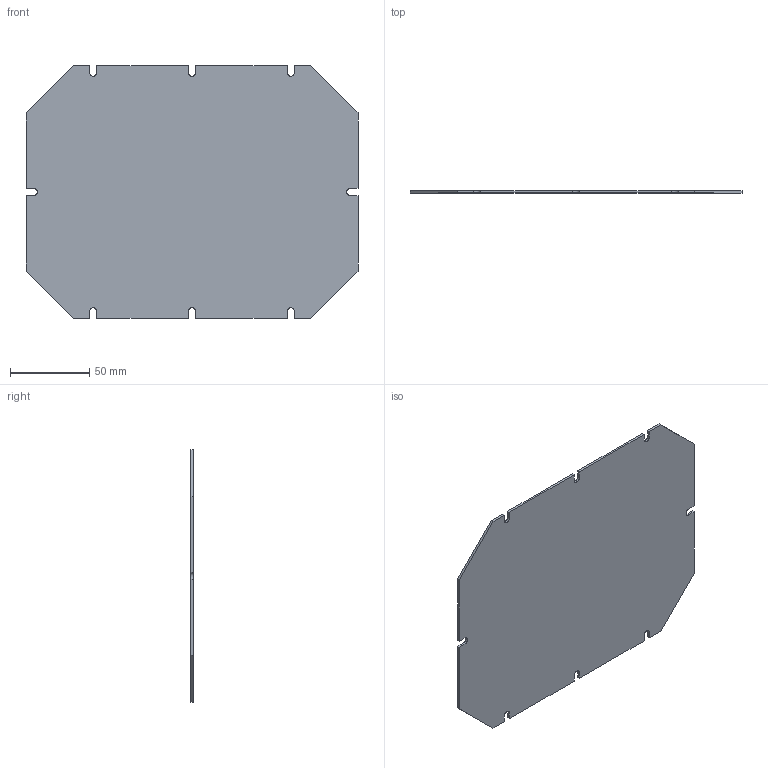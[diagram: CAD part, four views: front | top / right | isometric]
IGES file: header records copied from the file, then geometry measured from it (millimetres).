
Start section: SolidWorks IGES file using analytic representation for surfaces
Global section: file name: G:\3DRAW\Tempo\18000\MP2419.IGS; native system: SolidWorks 2009; preprocessor: SolidWorks 2009; author: KennethW; date: 100217.090317; units: millimetre
Bounding box: 210 x 1.5 x 160 mm (x, y, z)
Surface area: 64286.1 mm2 (no closed solid volume)
Topology: 0 solids, 0 shells, 45 faces, 492 edges, 492 vertices
Faces by surface type: bspline 34, revolution 11
